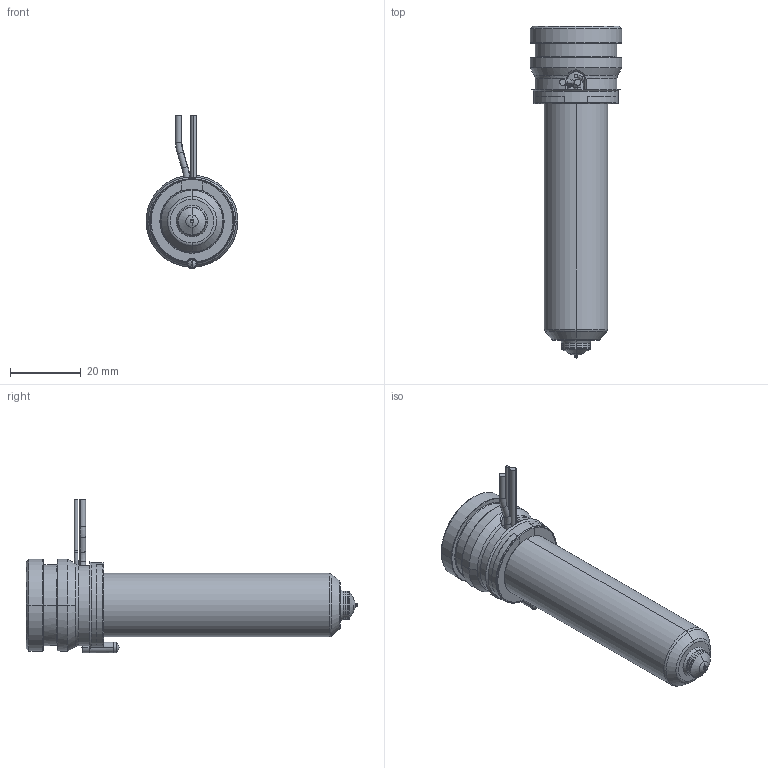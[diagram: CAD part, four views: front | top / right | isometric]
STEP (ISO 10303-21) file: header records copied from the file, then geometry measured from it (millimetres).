
FILE_DESCRIPTION((''),'2;1');
FILE_NAME('MPN-08-24-VSA8-076-A','2026-02-05T12:03:13',('UPTIO'),('Thermoplay S.p.A.'),'CREO PARAMETRIC BY PTC INC, 2023494','CREO PARAMETRIC BY PTC INC, 2023494','');
FILE_SCHEMA(('CONFIG_CONTROL_DESIGN','SHAPE_APPEARANCE_LAYERS_GROUPS'));
Length unit declared in the file: millimetre
Products named in the file (1): MPN-08-24-VSA8-076-A
Bounding box: 26 x 94 x 43.5 mm (x, y, z)
Volume: 19291.9 mm3; surface area: 23807.9 mm2
Topology: 2 solids, 3 shells, 543 faces, 1440 edges, 895 vertices
Faces by surface type: cylinder 182, plane 143, bspline 80, torus 62, cone 60, sphere 10, extrusion 6
Entity records: 29169 total; most frequent: CARTESIAN_POINT 12971, ORIENTED_EDGE 2864, DIRECTION 2580, EDGE_CURVE 1432, AXIS2_PLACEMENT_3D 1007, VERTEX_POINT 895, EDGE_LOOP 571, VECTOR 566
